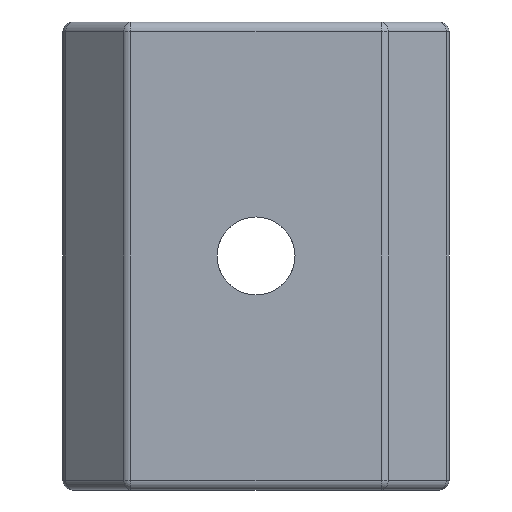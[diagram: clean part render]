
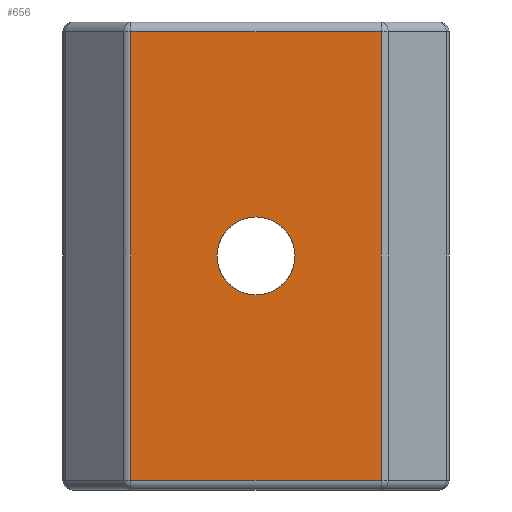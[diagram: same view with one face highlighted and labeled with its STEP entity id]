
A CAD part, front view. The second image highlights one B-rep face of the part: STEP entity #656.
In plain terms, the highlighted planar face has unit normal (0, -1, 0).
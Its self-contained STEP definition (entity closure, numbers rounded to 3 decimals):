
#9 = CARTESIAN_POINT ( 'NONE',  ( -1.283, -6.533, -10. ) ) ;
#65 = VECTOR ( 'NONE', #1279, 1000. ) ;
#182 = CIRCLE ( 'NONE', #2219, 2. ) ;
#202 = CARTESIAN_POINT ( 'NONE',  ( -7.913, -6.533, -23.5 ) ) ;
#210 = CARTESIAN_POINT ( 'NONE',  ( -7.913, -6.533, -24. ) ) ;
#215 = EDGE_LOOP ( 'NONE', ( #1224, #1315 ) ) ;
#259 = VERTEX_POINT ( 'NONE', #2076 ) ;
#289 = VERTEX_POINT ( 'NONE', #9 ) ;
#337 = AXIS2_PLACEMENT_3D ( 'NONE', #210, #757, #1135 ) ;
#366 = AXIS2_PLACEMENT_3D ( 'NONE', #1922, #1524, #578 ) ;
#437 = EDGE_CURVE ( 'NONE', #2233, #456, #1308, .T. ) ;
#456 = VERTEX_POINT ( 'NONE', #1201 ) ;
#502 = CARTESIAN_POINT ( 'NONE',  ( -7.913, -6.533, -0.5 ) ) ;
#578 = DIRECTION ( 'NONE',  ( 0., 0., -1. ) ) ;
#591 = LINE ( 'NONE', #953, #1210 ) ;
#641 = EDGE_CURVE ( 'NONE', #259, #2233, #1482, .T. ) ;
#656 = ADVANCED_FACE ( 'NONE', ( #1629, #2275 ), #962, .T. ) ;
#663 = CARTESIAN_POINT ( 'NONE',  ( 5.14, -6.533, -24. ) ) ;
#757 = DIRECTION ( 'NONE',  ( 0., -1., 0. ) ) ;
#857 = ORIENTED_EDGE ( 'NONE', *, *, #1577, .T. ) ;
#944 = DIRECTION ( 'NONE',  ( 1., 0., 0. ) ) ;
#953 = CARTESIAN_POINT ( 'NONE',  ( -7.705, -6.533, -24. ) ) ;
#962 = PLANE ( 'NONE',  #337 ) ;
#1022 = EDGE_CURVE ( 'NONE', #456, #1147, #1744, .T. ) ;
#1122 = CARTESIAN_POINT ( 'NONE',  ( -7.705, -6.533, -0.5 ) ) ;
#1129 = CARTESIAN_POINT ( 'NONE',  ( -1.283, -6.533, -14. ) ) ;
#1135 = DIRECTION ( 'NONE',  ( 0., 0., -1. ) ) ;
#1147 = VERTEX_POINT ( 'NONE', #1122 ) ;
#1201 = CARTESIAN_POINT ( 'NONE',  ( 5.14, -6.533, -0.5 ) ) ;
#1210 = VECTOR ( 'NONE', #1336, 1000. ) ;
#1224 = ORIENTED_EDGE ( 'NONE', *, *, #2120, .T. ) ;
#1263 = EDGE_CURVE ( 'NONE', #1295, #289, #182, .T. ) ;
#1279 = DIRECTION ( 'NONE',  ( -1., 0., 0. ) ) ;
#1295 = VERTEX_POINT ( 'NONE', #1129 ) ;
#1308 = LINE ( 'NONE', #663, #1717 ) ;
#1315 = ORIENTED_EDGE ( 'NONE', *, *, #1263, .T. ) ;
#1336 = DIRECTION ( 'NONE',  ( 0., 0., -1. ) ) ;
#1463 = ORIENTED_EDGE ( 'NONE', *, *, #437, .T. ) ;
#1482 = LINE ( 'NONE', #202, #2037 ) ;
#1524 = DIRECTION ( 'NONE',  ( 0., 1., 0. ) ) ;
#1577 = EDGE_CURVE ( 'NONE', #1147, #259, #591, .T. ) ;
#1629 = FACE_OUTER_BOUND ( 'NONE', #2183, .T. ) ;
#1694 = DIRECTION ( 'NONE',  ( 0., 1., 0. ) ) ;
#1717 = VECTOR ( 'NONE', #2332, 1000. ) ;
#1742 = DIRECTION ( 'NONE',  ( 0., 0., -1. ) ) ;
#1744 = LINE ( 'NONE', #502, #65 ) ;
#1922 = CARTESIAN_POINT ( 'NONE',  ( -1.283, -6.533, -12. ) ) ;
#2022 = CARTESIAN_POINT ( 'NONE',  ( 5.14, -6.533, -23.5 ) ) ;
#2037 = VECTOR ( 'NONE', #944, 1000. ) ;
#2076 = CARTESIAN_POINT ( 'NONE',  ( -7.705, -6.533, -23.5 ) ) ;
#2120 = EDGE_CURVE ( 'NONE', #289, #1295, #2179, .T. ) ;
#2179 = CIRCLE ( 'NONE', #366, 2. ) ;
#2183 = EDGE_LOOP ( 'NONE', ( #857, #2318, #1463, #2322 ) ) ;
#2207 = CARTESIAN_POINT ( 'NONE',  ( -1.283, -6.533, -12. ) ) ;
#2219 = AXIS2_PLACEMENT_3D ( 'NONE', #2207, #1694, #1742 ) ;
#2233 = VERTEX_POINT ( 'NONE', #2022 ) ;
#2275 = FACE_BOUND ( 'NONE', #215, .T. ) ;
#2318 = ORIENTED_EDGE ( 'NONE', *, *, #641, .T. ) ;
#2322 = ORIENTED_EDGE ( 'NONE', *, *, #1022, .T. ) ;
#2332 = DIRECTION ( 'NONE',  ( 0., 0., 1. ) ) ;
